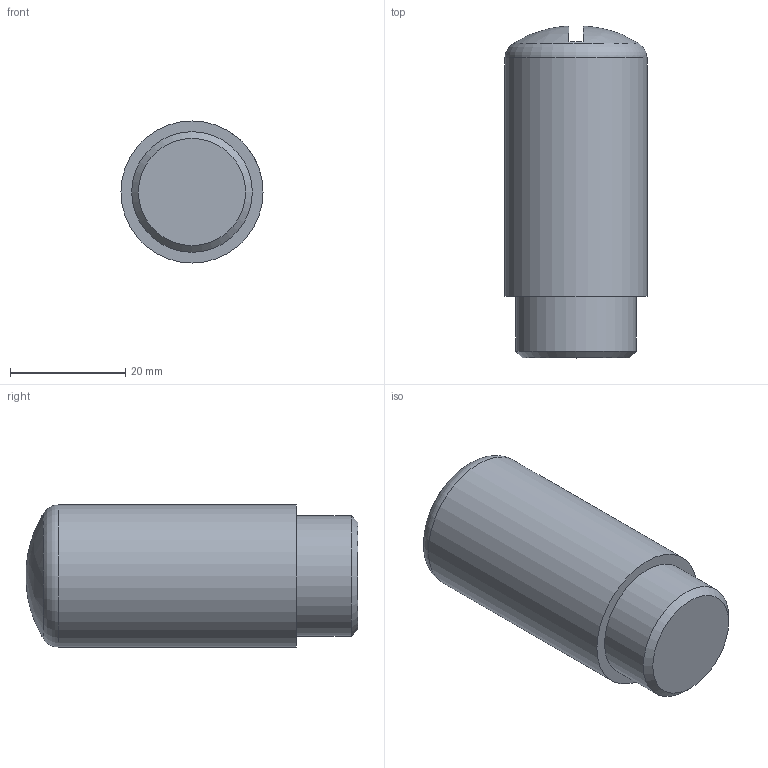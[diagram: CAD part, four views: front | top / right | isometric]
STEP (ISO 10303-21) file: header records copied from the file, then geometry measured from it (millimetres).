
FILE_DESCRIPTION( ( 'STEP AP214' ), '1' );
FILE_NAME( 'p:/temp/worker_5/temp/exporttempdir_5456_60_7pLJR/format_0/W0970530065.stp', '2021-12-09T08:33:55', ( 'License CC BY-ND 4.0' ), ( 'CADENAS' ), ' ', 'PARTsolutions', ' ' );
FILE_SCHEMA( ( 'AUTOMOTIVE_DESIGN { 1 0 10303 214 1 1 1 1 }' ) );
Length unit declared in the file: millimetre
Products named in the file (1): _W0970530065
Bounding box: 24.7 x 57.68 x 24.7 mm (x, y, z)
Volume: 25133.7 mm3; surface area: 5058.8 mm2
Topology: 1 solids, 1 shells, 10 faces, 18 edges, 11 vertices
Faces by surface type: plane 5, cylinder 2, cone 1, torus 1, bspline 1
Full cylindrical faces by diameter (mm): 20.955 x1, 24.7 x1
Entity records: 365 total; most frequent: CARTESIAN_POINT 98, DIRECTION 38, ORIENTED_EDGE 24, AXIS2_PLACEMENT_3D 18, EDGE_LOOP 16, FACE_OUTER_BOUND 14, EDGE_CURVE 12, STYLED_ITEM 10
